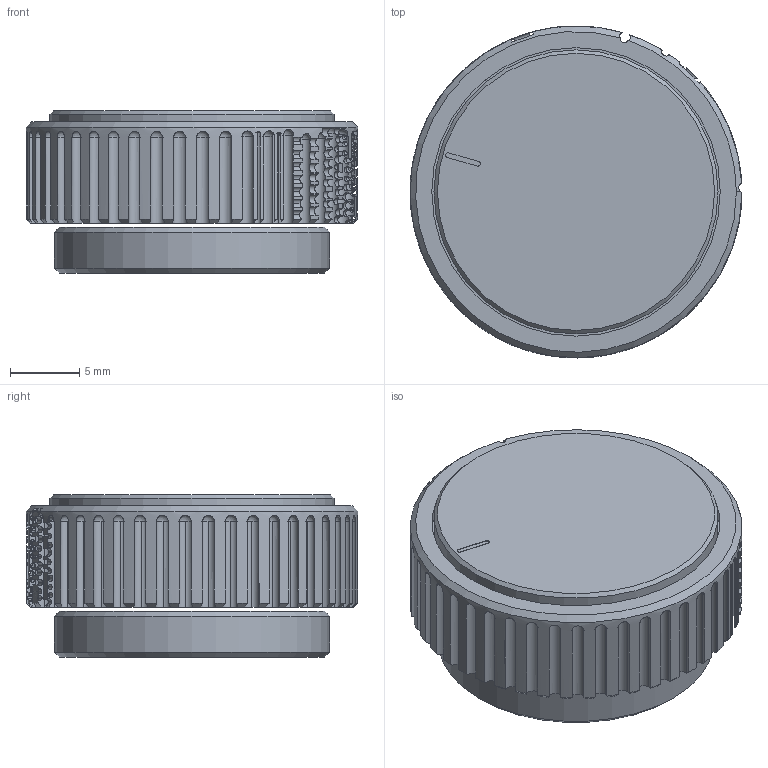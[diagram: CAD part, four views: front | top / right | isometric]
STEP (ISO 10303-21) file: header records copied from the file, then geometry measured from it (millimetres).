
FILE_DESCRIPTION(('Open CASCADE Model'),'2;1');
FILE_NAME('A17-entropihjul-V3-R01','2026-10-20T19:02:46',('Author'),( 'Open CASCADE'),'Open CASCADE STEP processor 8.0','build123d', 'Unknown');
FILE_SCHEMA(('AUTOMOTIVE_DESIGN { 1 0 10303 214 1 1 1 1 }'));
Length unit declared in the file: millimetre
Products named in the file (5): A17-entropihjul-V3-R01; A17-entropihjul-V3-R01_ring_riflet; A17-entropihjul-V3-R01_lokk; A17-entropihjul-V3-R01_indeks_lakk; A17-entropihjul-V3-R01_fotring
Assembly tree (4 placements, depth 2):
  A17-entropihjul-V3-R01
    A17-entropihjul-V3-R01_ring_riflet
    A17-entropihjul-V3-R01_lokk
    A17-entropihjul-V3-R01_indeks_lakk
    A17-entropihjul-V3-R01_fotring
Bounding box: 24 x 24 x 11.73 mm (x, y, z)
Volume: 3620.4 mm3; surface area: 3423.9 mm2
Topology: 4 solids, 4 shells, 743 faces, 2471 edges, 1636 vertices
Faces by surface type: cylinder 595, cone 56, sphere 50, plane 42
Full cylindrical faces by diameter (mm): 0.249 x1, 0.293 x1, 0.295 x1, 0.299 x1, 0.305 x1, 0.308 x1, 0.312 x1, 0.317 x1, 0.318 x1, 0.325 x1, 0.326 x1, 0.331 x1, 0.332 x1, 0.334 x1, 0.34 x1, 0.345 x1, 0.349 x1, 0.353 x2, 0.354 x1, 0.357 x1, 0.36 x1, 0.361 x1, 0.362 x1, 0.363 x1, 0.371 x3, 0.372 x2, 0.376 x1, 0.379 x2, 0.38 x1, 0.381 x2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
Entity records: 176993 total; most frequent: CARTESIAN_POINT 137966, B_SPLINE_CURVE_WITH_KNOTS 4909, ORIENTED_EDGE 4852, PCURVE 4852, DEFINITIONAL_REPRESENTATION 4852, DIRECTION 4248, EDGE_CURVE 2426, SURFACE_CURVE 2299
